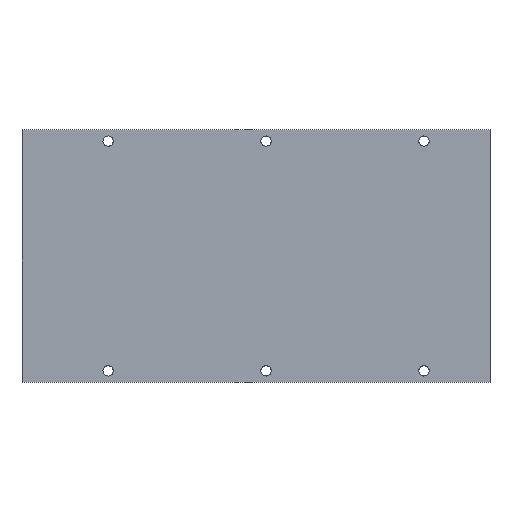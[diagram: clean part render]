
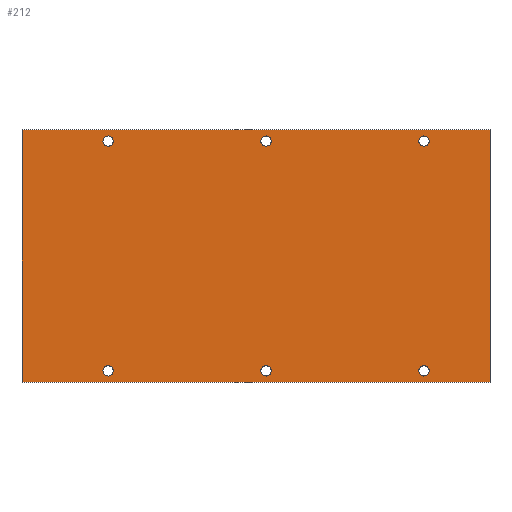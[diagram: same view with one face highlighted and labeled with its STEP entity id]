
A CAD part, top view. The second image highlights one B-rep face of the part: STEP entity #212.
In plain terms, the highlighted planar face has unit normal (0, 0, 1).
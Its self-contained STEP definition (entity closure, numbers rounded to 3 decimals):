
#32 = VERTEX_POINT('',#33);
#33 = CARTESIAN_POINT('',(0.,88.,5.));
#39 = EDGE_CURVE('',#32,#40,#42,.T.);
#40 = VERTEX_POINT('',#41);
#41 = CARTESIAN_POINT('',(0.,0.,5.));
#42 = LINE('',#43,#44);
#43 = CARTESIAN_POINT('',(0.,88.,5.));
#44 = VECTOR('',#45,1.);
#45 = DIRECTION('',(0.,-1.,0.));
#195 = VERTEX_POINT('',#196);
#196 = CARTESIAN_POINT('',(163.,0.,5.));
#202 = EDGE_CURVE('',#40,#195,#203,.T.);
#203 = LINE('',#204,#205);
#204 = CARTESIAN_POINT('',(0.,0.,5.));
#205 = VECTOR('',#206,1.);
#206 = DIRECTION('',(1.,0.,0.));
#212 = ADVANCED_FACE('',(#213,#231,#242,#253,#264,#275,#286),#297,.T.);
#213 = FACE_BOUND('',#214,.T.);
#214 = EDGE_LOOP('',(#215,#223,#224,#225));
#215 = ORIENTED_EDGE('',*,*,#216,.F.);
#216 = EDGE_CURVE('',#32,#217,#219,.T.);
#217 = VERTEX_POINT('',#218);
#218 = CARTESIAN_POINT('',(163.,88.,5.));
#219 = LINE('',#220,#221);
#220 = CARTESIAN_POINT('',(0.,88.,5.));
#221 = VECTOR('',#222,1.);
#222 = DIRECTION('',(1.,0.,0.));
#223 = ORIENTED_EDGE('',*,*,#39,.T.);
#224 = ORIENTED_EDGE('',*,*,#202,.T.);
#225 = ORIENTED_EDGE('',*,*,#226,.F.);
#226 = EDGE_CURVE('',#217,#195,#227,.T.);
#227 = LINE('',#228,#229);
#228 = CARTESIAN_POINT('',(163.,88.,5.));
#229 = VECTOR('',#230,1.);
#230 = DIRECTION('',(0.,-1.,0.));
#231 = FACE_BOUND('',#232,.T.);
#232 = EDGE_LOOP('',(#233));
#233 = ORIENTED_EDGE('',*,*,#234,.F.);
#234 = EDGE_CURVE('',#235,#235,#237,.T.);
#235 = VERTEX_POINT('',#236);
#236 = CARTESIAN_POINT('',(30.,82.2,5.));
#237 = CIRCLE('',#238,1.8);
#238 = AXIS2_PLACEMENT_3D('',#239,#240,#241);
#239 = CARTESIAN_POINT('',(30.,84.,5.));
#240 = DIRECTION('',(0.,0.,1.));
#241 = DIRECTION('',(0.,-1.,0.));
#242 = FACE_BOUND('',#243,.T.);
#243 = EDGE_LOOP('',(#244));
#244 = ORIENTED_EDGE('',*,*,#245,.F.);
#245 = EDGE_CURVE('',#246,#246,#248,.T.);
#246 = VERTEX_POINT('',#247);
#247 = CARTESIAN_POINT('',(85.,82.2,5.));
#248 = CIRCLE('',#249,1.8);
#249 = AXIS2_PLACEMENT_3D('',#250,#251,#252);
#250 = CARTESIAN_POINT('',(85.,84.,5.));
#251 = DIRECTION('',(0.,0.,1.));
#252 = DIRECTION('',(0.,-1.,0.));
#253 = FACE_BOUND('',#254,.T.);
#254 = EDGE_LOOP('',(#255));
#255 = ORIENTED_EDGE('',*,*,#256,.F.);
#256 = EDGE_CURVE('',#257,#257,#259,.T.);
#257 = VERTEX_POINT('',#258);
#258 = CARTESIAN_POINT('',(30.,2.2,5.));
#259 = CIRCLE('',#260,1.8);
#260 = AXIS2_PLACEMENT_3D('',#261,#262,#263);
#261 = CARTESIAN_POINT('',(30.,4.,5.));
#262 = DIRECTION('',(0.,0.,1.));
#263 = DIRECTION('',(0.,-1.,0.));
#264 = FACE_BOUND('',#265,.T.);
#265 = EDGE_LOOP('',(#266));
#266 = ORIENTED_EDGE('',*,*,#267,.F.);
#267 = EDGE_CURVE('',#268,#268,#270,.T.);
#268 = VERTEX_POINT('',#269);
#269 = CARTESIAN_POINT('',(85.,2.2,5.));
#270 = CIRCLE('',#271,1.8);
#271 = AXIS2_PLACEMENT_3D('',#272,#273,#274);
#272 = CARTESIAN_POINT('',(85.,4.,5.));
#273 = DIRECTION('',(0.,0.,1.));
#274 = DIRECTION('',(0.,-1.,0.));
#275 = FACE_BOUND('',#276,.T.);
#276 = EDGE_LOOP('',(#277));
#277 = ORIENTED_EDGE('',*,*,#278,.F.);
#278 = EDGE_CURVE('',#279,#279,#281,.T.);
#279 = VERTEX_POINT('',#280);
#280 = CARTESIAN_POINT('',(140.,82.2,5.));
#281 = CIRCLE('',#282,1.8);
#282 = AXIS2_PLACEMENT_3D('',#283,#284,#285);
#283 = CARTESIAN_POINT('',(140.,84.,5.));
#284 = DIRECTION('',(0.,0.,1.));
#285 = DIRECTION('',(0.,-1.,0.));
#286 = FACE_BOUND('',#287,.T.);
#287 = EDGE_LOOP('',(#288));
#288 = ORIENTED_EDGE('',*,*,#289,.F.);
#289 = EDGE_CURVE('',#290,#290,#292,.T.);
#290 = VERTEX_POINT('',#291);
#291 = CARTESIAN_POINT('',(140.,2.2,5.));
#292 = CIRCLE('',#293,1.8);
#293 = AXIS2_PLACEMENT_3D('',#294,#295,#296);
#294 = CARTESIAN_POINT('',(140.,4.,5.));
#295 = DIRECTION('',(0.,0.,1.));
#296 = DIRECTION('',(0.,-1.,0.));
#297 = PLANE('',#298);
#298 = AXIS2_PLACEMENT_3D('',#299,#300,#301);
#299 = CARTESIAN_POINT('',(0.,88.,5.));
#300 = DIRECTION('',(0.,0.,1.));
#301 = DIRECTION('',(0.,-1.,0.));
